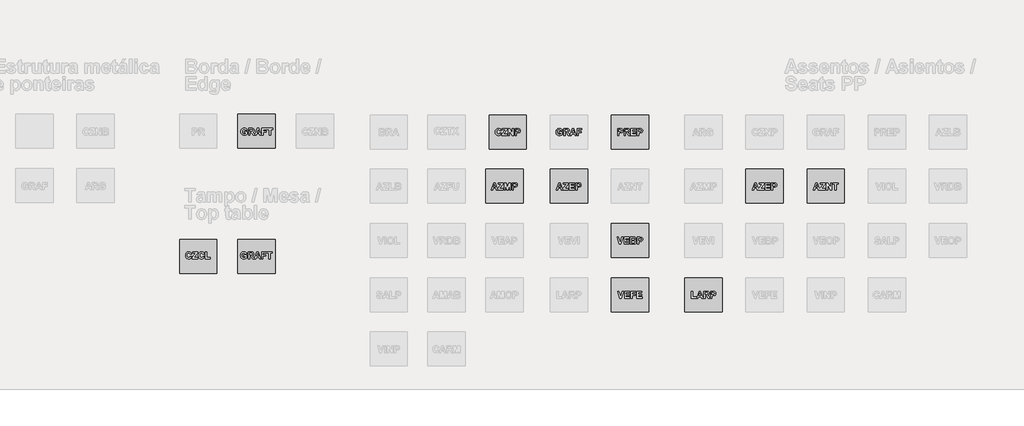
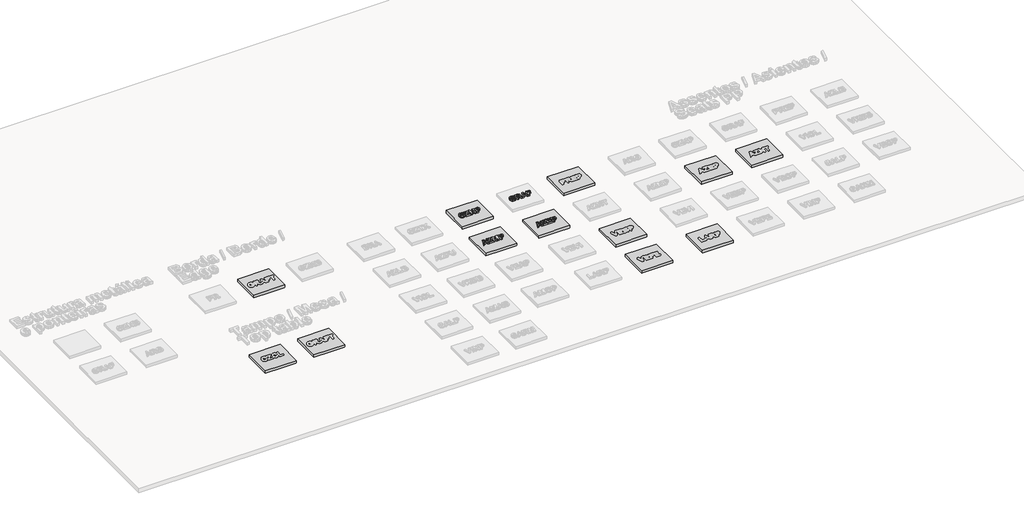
# One storey, part 6 of 11: 16 proxies.
"""IFC4 building model written with IfcOpenShell, lengths in millimetres."""

from ifc_helpers import new_model, si_unit, frame, origin, place, context, project, spatial, polyline, outline, extrude, transform, mapped, element, save
from components import generic_models_12_generic_models_1_aeca2572, generic_models_14_generic_models_1_f76d4024, generic_models_15_generic_models_1_2de620d3, generic_models_18_generic_models_1_cb23df02, generic_models_22_generic_models_1_4682f98c, generic_models_3_generic_models_1_f9f5fa65, generic_models_39_generic_models_1_207fc2ec, generic_models_4_generic_models_1_a14395d2, generic_models_43_generic_models_1_5dd9acc0, generic_models_47_generic_models_1_7874324c, generic_models_5_generic_models_1_ef61b294

model = new_model("IFC4")

# Units and contexts
model_context = context("Model", 3, world=origin())
ifc_project = project(units=[si_unit("LENGTHUNIT", "METRE", prefix="MILLI")], contexts=[model_context])

# Site, building, storey
site = spatial("IfcSite", under=ifc_project)
building = spatial("IfcBuilding", under=site)
storey = spatial("IfcBuildingStorey", under=building, Name="Biblioteca BIM Revit Metadil - Refeitório", Elevation=0.0)

# Proxies
placement = place(None, origin())
element("IfcBuildingElementProxy", 1, Name="Arial 200mm", ObjectType="Arial 200mm", at=placement, inside=storey, context=model_context, shape_type="SweptSolid", body=[
    extrude(outline(polyline([(-2708.5125485, 2026.3873716), (-2669.6455238, 2013.4316967), (-2681.9053372, 1984.8064872), (-2700.2634274, 1964.6201793), (-2724.5553178, 1952.6450364), (-2754.6165323, 1948.6533221), (-2774.0785117, 1950.3581826), (-2791.7249254, 1955.4727643), (-2807.5557733, 1963.997067), (-2821.5710554, 1975.9310908), (-2833.0401173, 1990.8225257), (-2841.2323043, 2008.2190619), (-2846.1476165, 2028.1206992), (-2847.7860539, 2050.5274378), (-2846.133383, 2074.1550969), (-2841.1753702, 2094.9866581), (-2832.9120155, 2113.0221216), (-2821.343319, 2128.2614873), (-2807.0797408, 2140.3726394), (-2790.7317414, 2149.0234624), (-2772.2993206, 2154.2139562), (-2751.7824784, 2155.9441208), (-2717.6726155, 2150.2380569), (-2703.2746096, 2143.1054771), (-2690.6478874, 2133.1198654), (-2678.3880739, 2116.7101873), (-2669.6455238, 2094.4046649), (-2708.5125485, 2087.9268275), (-2714.4653269, 2101.3696054), (-2724.63123, 2111.6367247), (-2738.2258323, 2118.1461923), (-2754.464708, 2120.3160148), (-2776.4222996, 2116.3749086), (-2793.8125098, 2104.55159), (-2805.1423993, 2083.9098091), (-2808.9190291, 2053.513316), (-2805.2562675, 2021.4530813), (-2794.2679827, 2000.1723731), (-2777.4091577, 1988.2541644), (-2756.1347755, 1984.2814281), (-2740.0730281, 1986.8181594), (-2726.4025137, 1994.4283532), (-2715.6925734, 2007.4915703), (-2708.5125485, 2026.3873716)])), frame((0.0, 0.0, 100.0), z_axis=(0.0, 0.0, 1.0), x_axis=(1.0, 0.0, 0.0)), (0.0, 0.0, 1.0), 50.0),
    extrude(outline(polyline([(-2653.4509301, 1948.6533221), (-2653.4509301, 1987.5203468), (-2544.0868149, 2117.077096), (-2640.4952552, 2117.077096), (-2640.4952552, 2152.7052021), (-2494.7439123, 2152.7052021), (-2494.7439123, 2117.077096), (-2606.8408653, 1984.2814281), (-2491.5049936, 1984.2814281), (-2491.5049936, 1948.6533221), (-2653.4509301, 1948.6533221)])), frame((0.0, 0.0, 100.0), z_axis=(0.0, 0.0, 1.0), x_axis=(1.0, 0.0, 0.0)), (0.0, 0.0, 1.0), 50.0),
    extrude(outline(polyline([(-2465.5936438, 1948.6533221), (-2465.5936438, 2152.7052021), (-2424.8541191, 2152.7052021), (-2339.2758133, 2015.3548047), (-2339.2758133, 2152.7052021), (-2300.4087885, 2152.7052021), (-2300.4087885, 1948.6533221), (-2342.4135158, 1948.6533221), (-2426.726619, 2083.9793953), (-2426.726619, 1948.6533221), (-2465.5936438, 1948.6533221)])), frame((0.0, 0.0, 100.0), z_axis=(0.0, 0.0, 1.0), x_axis=(1.0, 0.0, 0.0)), (0.0, 0.0, 1.0), 50.0),
    extrude(outline(polyline([(-2261.5417638, 1948.6533221), (-2261.5417638, 2152.7052021), (-2195.8018352, 2152.7052021), (-2147.0662299, 2149.6687158), (-2131.0297866, 2142.4254307), (-2117.8400492, 2129.8050345), (-2109.0152608, 2112.2756521), (-2106.0736647, 2090.3054084), (-2107.8006663, 2073.1176307), (-2112.9816711, 2058.9030792), (-2120.8259274, 2047.5415596), (-2130.5426836, 2038.9128776), (-2152.1776485, 2029.2720336), (-2195.4475784, 2026.3873716), (-2222.674739, 2026.3873716), (-2222.674739, 1948.6533221), (-2261.5417638, 1948.6533221)]), holes=[polyline([(-2222.674739, 2117.077096), (-2222.674739, 2062.0154776), (-2198.5346728, 2062.0154776), (-2163.6909924, 2065.0519639), (-2149.9255878, 2074.5915918), (-2144.9406895, 2089.6981112), (-2146.6929951, 2099.3516072), (-2151.9499121, 2107.1579074), (-2169.6374448, 2115.7612853), (-2201.3687267, 2117.077096), (-2222.674739, 2117.077096)])]), frame((0.0, 0.0, 100.0), z_axis=(0.0, 0.0, 1.0), x_axis=(1.0, 0.0, 0.0)), (0.0, 0.0, 1.0), 50.0),
])
element("IfcBuildingElementProxy", 2, Name="Arial 200mm", ObjectType="Arial 200mm", at=placement, inside=storey, context=model_context, shape_type="SweptSolid", body=[
    extrude(outline(polyline([(-957.0963295, 2023.1484529), (-957.0963295, 2058.7765589), (-869.6455238, 2058.7765589), (-869.6455238, 1977.3987258), (-885.2581242, 1965.461539), (-906.5894405, 1955.0552474), (-930.9319391, 1947.8246144), (-955.5780863, 1945.4144034), (-985.0446555, 1948.7671903), (-1010.4878804, 1958.8255512), (-1031.009467, 1975.1150351), (-1045.7111216, 1997.1611909), (-1054.554888, 2023.1800829), (-1057.5028101, 2051.3877755), (-1054.1690012, 2081.4047079), (-1044.1675744, 2107.891725), (-1027.7389182, 2129.7354483), (-1005.1234213, 2145.8224998), (-983.1341996, 2153.4137155), (-956.3372079, 2155.9441208), (-922.5752757, 2151.8575163), (-897.1004208, 2139.5977028), (-879.5710384, 2120.1262344), (-869.6455238, 2094.4046649), (-908.5125485, 2087.9268275), (-915.0536461, 2101.3696054), (-925.56748, 2111.6367247), (-939.6238812, 2118.1461923), (-956.7926808, 2120.3160148), (-982.2359057, 2116.077586), (-1001.8845025, 2103.3622995), (-1014.4479646, 2082.2966758), (-1018.6357853, 2053.0072349), (-1014.4732687, 2021.5226675), (-1001.9857187, 1999.0336908), (-982.7419868, 1985.5403047), (-958.310924, 1981.0425094), (-931.5645404, 1985.9767996), (-908.5125485, 1997.9456165), (-908.5125485, 2023.1484529), (-957.0963295, 2023.1484529)])), frame((0.0, 0.0, 100.0), z_axis=(0.0, 0.0, 1.0), x_axis=(1.0, 0.0, 0.0)), (0.0, 0.0, 1.0), 50.0),
    extrude(outline(polyline([(-830.778499, 1948.6533221), (-830.778499, 2152.7052021), (-744.9471526, 2152.7052021), (-716.9861745, 2151.3261312), (-697.8816149, 2147.1889186), (-684.6728994, 2139.5217907), (-674.3994541, 2127.5529738), (-667.7950963, 2112.4084983), (-665.5936438, 2095.2143946), (-668.7756284, 2074.1487708), (-678.3215822, 2057.1064914), (-694.2062012, 2044.85933), (-716.4041813, 2038.1790601), (-696.009115, 2021.1747368), (-674.348846, 1988.2288603), (-649.3990501, 1948.6533221), (-694.7945204, 1948.6533221), (-724.3496538, 1995.2633869), (-747.5534701, 2022.9207164), (-760.8127936, 2030.7396686), (-783.0044477, 2032.8652091), (-791.9114742, 2032.8652091), (-791.9114742, 1948.6533221), (-830.778499, 1948.6533221)]), holes=[polyline([(-791.9114742, 2068.4933151), (-759.8765437, 2068.4933151), (-720.9842149, 2070.846592), (-708.8382696, 2078.9438888), (-704.4606685, 2093.2912866), (-705.9029995, 2102.0275108), (-710.2299925, 2108.9038871), (-726.5258024, 2116.4191907), (-758.10526, 2117.077096), (-791.9114742, 2117.077096), (-791.9114742, 2068.4933151)])]), frame((0.0, 0.0, 100.0), z_axis=(0.0, 0.0, 1.0), x_axis=(1.0, 0.0, 0.0)), (0.0, 0.0, 1.0), 50.0),
    extrude(outline(polyline([(-455.0639263, 1948.6533221), (-495.9046672, 1948.6533221), (-511.8968284, 1993.9981843), (-588.9729726, 1993.9981843), (-604.7627014, 1948.6533221), (-646.1601314, 1948.6533221), (-571.6650006, 2152.7052021), (-530.2675706, 2152.7052021), (-455.0639263, 1948.6533221)]), holes=[polyline([(-524.3464223, 2029.6262903), (-550.6120288, 2104.1214211), (-576.5233787, 2029.6262903), (-524.3464223, 2029.6262903)])]), frame((0.0, 0.0, 100.0), z_axis=(0.0, 0.0, 1.0), x_axis=(1.0, 0.0, 0.0)), (0.0, 0.0, 1.0), 50.0),
    extrude(outline(polyline([(-435.6304139, 1948.6533221), (-435.6304139, 2152.7052021), (-296.3569085, 2152.7052021), (-296.3569085, 2117.077096), (-396.7633892, 2117.077096), (-396.7633892, 2071.7322338), (-309.3125835, 2071.7322338), (-309.3125835, 2036.1041278), (-396.7633892, 2036.1041278), (-396.7633892, 1948.6533221), (-435.6304139, 1948.6533221)])), frame((0.0, 0.0, 100.0), z_axis=(0.0, 0.0, 1.0), x_axis=(1.0, 0.0, 0.0)), (0.0, 0.0, 1.0), 50.0),
])
element("IfcBuildingElementProxy", 3, Name="Arial 200mm", ObjectType="Arial 200mm", at=placement, inside=storey, context=model_context, shape_type="SweptSolid", body=[
    extrude(outline(polyline([(-855.0703895, 348.6533221), (-895.9111303, 348.6533221), (-911.9032916, 393.9981843), (-988.9794357, 393.9981843), (-1004.7691645, 348.6533221), (-1046.1665945, 348.6533221), (-971.6714637, 552.7052021), (-930.2740337, 552.7052021), (-855.0703895, 348.6533221)]), holes=[polyline([(-924.3528854, 429.6262903), (-950.618492, 504.1214211), (-976.5298418, 429.6262903), (-924.3528854, 429.6262903)])]), frame((0.0, 0.0, 100.0), z_axis=(0.0, 0.0, 1.0), x_axis=(1.0, 0.0, 0.0)), (0.0, 0.0, 1.0), 50.0),
    extrude(outline(polyline([(-851.8314707, 348.6533221), (-851.8314707, 387.5203468), (-742.4673555, 517.077096), (-838.8757958, 517.077096), (-838.8757958, 552.7052021), (-693.124453, 552.7052021), (-693.124453, 517.077096), (-805.2214059, 384.2814281), (-689.8855342, 384.2814281), (-689.8855342, 348.6533221), (-851.8314707, 348.6533221)])), frame((0.0, 0.0, 100.0), z_axis=(0.0, 0.0, 1.0), x_axis=(1.0, 0.0, 0.0)), (0.0, 0.0, 1.0), 50.0),
    extrude(outline(polyline([(-663.9741844, 348.6533221), (-663.9741844, 552.7052021), (-511.7450041, 552.7052021), (-511.7450041, 517.077096), (-625.1071596, 517.077096), (-625.1071596, 471.7322338), (-518.2228415, 471.7322338), (-518.2228415, 436.1041278), (-625.1071596, 436.1041278), (-625.1071596, 384.2814281), (-508.5060854, 384.2814281), (-508.5060854, 348.6533221), (-663.9741844, 348.6533221)])), frame((0.0, 0.0, 100.0), z_axis=(0.0, 0.0, 1.0), x_axis=(1.0, 0.0, 0.0)), (0.0, 0.0, 1.0), 50.0),
    extrude(outline(polyline([(-476.1168981, 348.6533221), (-476.1168981, 552.7052021), (-410.3769695, 552.7052021), (-361.6413642, 549.6687158), (-345.6049209, 542.4254307), (-332.4151835, 529.8050345), (-323.5903951, 512.2756521), (-320.648799, 490.3054084), (-322.3758006, 473.1176307), (-327.5568054, 458.9030792), (-335.4010617, 447.5415596), (-345.1178179, 438.9128776), (-366.7527828, 429.2720336), (-410.0227127, 426.3873716), (-437.2498733, 426.3873716), (-437.2498733, 348.6533221), (-476.1168981, 348.6533221)]), holes=[polyline([(-437.2498733, 517.077096), (-437.2498733, 462.0154776), (-413.1098071, 462.0154776), (-378.2661267, 465.0519639), (-364.5007221, 474.5915918), (-359.5158238, 489.6981112), (-361.2681294, 499.3516072), (-366.5250463, 507.1579074), (-384.2125791, 515.7612853), (-415.943861, 517.077096), (-437.2498733, 517.077096)])]), frame((0.0, 0.0, 100.0), z_axis=(0.0, 0.0, 1.0), x_axis=(1.0, 0.0, 0.0)), (0.0, 0.0, 1.0), 50.0),
])
element("IfcBuildingElementProxy", 4, Name="Arial 200mm", ObjectType="Arial 200mm", at=placement, inside=storey, context=model_context, shape_type="SweptSolid", body=[
    extrude(outline(polyline([(-2775.4663706, 348.6533221), (-2816.3071115, 348.6533221), (-2832.2992727, 393.9981843), (-2909.3754169, 393.9981843), (-2925.1651457, 348.6533221), (-2966.5625757, 348.6533221), (-2892.0674449, 552.7052021), (-2850.6700149, 552.7052021), (-2775.4663706, 348.6533221)]), holes=[polyline([(-2844.7488666, 429.6262903), (-2871.0144732, 504.1214211), (-2896.925823, 429.6262903), (-2844.7488666, 429.6262903)])]), frame((0.0, 0.0, 100.0), z_axis=(0.0, 0.0, 1.0), x_axis=(1.0, 0.0, 0.0)), (0.0, 0.0, 1.0), 50.0),
    extrude(outline(polyline([(-2772.2274519, 348.6533221), (-2772.2274519, 387.5203468), (-2662.8633367, 517.077096), (-2759.271777, 517.077096), (-2759.271777, 552.7052021), (-2613.5204341, 552.7052021), (-2613.5204341, 517.077096), (-2725.617387, 384.2814281), (-2610.2815154, 384.2814281), (-2610.2815154, 348.6533221), (-2772.2274519, 348.6533221)])), frame((0.0, 0.0, 100.0), z_axis=(0.0, 0.0, 1.0), x_axis=(1.0, 0.0, 0.0)), (0.0, 0.0, 1.0), 50.0),
    extrude(outline(polyline([(-2584.3701656, 348.6533221), (-2584.3701656, 552.7052021), (-2517.7698992, 552.7052021), (-2485.5831443, 413.5329129), (-2453.3963894, 552.7052021), (-2386.796123, 552.7052021), (-2386.796123, 348.6533221), (-2425.6631478, 348.6533221), (-2427.2826072, 509.2834478), (-2462.809497, 348.6533221), (-2508.3061835, 348.6533221), (-2543.8836814, 509.2834478), (-2545.5031408, 348.6533221), (-2584.3701656, 348.6533221)])), frame((0.0, 0.0, 100.0), z_axis=(0.0, 0.0, 1.0), x_axis=(1.0, 0.0, 0.0)), (0.0, 0.0, 1.0), 50.0),
    extrude(outline(polyline([(-2347.9290983, 348.6533221), (-2347.9290983, 552.7052021), (-2282.1891697, 552.7052021), (-2233.4535644, 549.6687158), (-2217.4171211, 542.4254307), (-2204.2273837, 529.8050345), (-2195.4025953, 512.2756521), (-2192.4609992, 490.3054084), (-2194.1880008, 473.1176307), (-2199.3690056, 458.9030792), (-2207.2132619, 447.5415596), (-2216.9300181, 438.9128776), (-2238.564983, 429.2720336), (-2281.8349129, 426.3873716), (-2309.0620735, 426.3873716), (-2309.0620735, 348.6533221), (-2347.9290983, 348.6533221)]), holes=[polyline([(-2309.0620735, 517.077096), (-2309.0620735, 462.0154776), (-2284.9220073, 462.0154776), (-2250.0783269, 465.0519639), (-2236.3129223, 474.5915918), (-2231.328024, 489.6981112), (-2233.0803296, 499.3516072), (-2238.3372465, 507.1579074), (-2256.0247793, 515.7612853), (-2287.7560612, 517.077096), (-2309.0620735, 517.077096)])]), frame((0.0, 0.0, 100.0), z_axis=(0.0, 0.0, 1.0), x_axis=(1.0, 0.0, 0.0)), (0.0, 0.0, 1.0), 50.0),
])
generic_models_12_generic_models_1_shape = generic_models_12_generic_models_1_aeca2572(model_context)
element("IfcBuildingElementProxy", 5, Name="Generic Models 12 : Generic Models 1", ObjectType="Generic Models 12 : Generic Models 1", at=placement, inside=storey, context=model_context, shape_type="MappedRepresentation", body=[
    mapped(generic_models_12_generic_models_1_shape, transform((-7464.2678757, 7443.0756766, 0.0), x_axis=(1.0, 0.0, 0.0), y_axis=(0.0, 1.0, 0.0), z_axis=(0.0, 0.0, 1.0))),
])
generic_models_14_generic_models_1_shape = generic_models_14_generic_models_1_f76d4024(model_context)
element("IfcBuildingElementProxy", 6, Name="Generic Models 14 : Generic Models 1", ObjectType="Generic Models 14 : Generic Models 1", at=placement, inside=storey, context=model_context, shape_type="MappedRepresentation", body=[
    mapped(generic_models_14_generic_models_1_shape, transform((-3864.2678757, 7443.0756766, 0.0), x_axis=(1.0, 0.0, 0.0), y_axis=(0.0, 1.0, 0.0), z_axis=(0.0, 0.0, 1.0))),
])
generic_models_15_generic_models_1_shape = generic_models_15_generic_models_1_2de620d3(model_context)
element("IfcBuildingElementProxy", 7, Name="Generic Models 15 : Generic Models 1", ObjectType="Generic Models 15 : Generic Models 1", at=placement, inside=storey, context=model_context, shape_type="MappedRepresentation", body=[
    mapped(generic_models_15_generic_models_1_shape, transform((-3864.2678757, 5843.0756766, 0.0), x_axis=(1.0, 0.0, 0.0), y_axis=(0.0, 1.0, 0.0), z_axis=(0.0, 0.0, 1.0))),
])
generic_models_18_generic_models_1_shape = generic_models_18_generic_models_1_cb23df02(model_context)
element("IfcBuildingElementProxy", 8, Name="Generic Models 18 : Generic Models 1", ObjectType="Generic Models 18 : Generic Models 1", at=placement, inside=storey, context=model_context, shape_type="MappedRepresentation", body=[
    mapped(generic_models_18_generic_models_1_shape, transform((-7464.2678757, 7443.0756766, 0.0), x_axis=(1.0, 0.0, 0.0), y_axis=(0.0, 1.0, 0.0), z_axis=(0.0, 0.0, 1.0))),
])
element("IfcBuildingElementProxy", 9, Name="Generic Models 21 : Generic Models 1", ObjectType="Generic Models 21 : Generic Models 1", at=placement, inside=storey, context=model_context, shape_type="MappedRepresentation", body=[
    mapped(generic_models_14_generic_models_1_shape, transform((-5760.3719664, 7443.0756766, 0.0), x_axis=(1.0, 0.0, 0.0), y_axis=(0.0, 1.0, 0.0), z_axis=(0.0, 0.0, 1.0))),
])
generic_models_22_generic_models_1_shape = generic_models_22_generic_models_1_4682f98c(model_context)
element("IfcBuildingElementProxy", 10, Name="Generic Models 22 : Generic Models 1", ObjectType="Generic Models 22 : Generic Models 1", at=placement, inside=storey, context=model_context, shape_type="MappedRepresentation", body=[
    mapped(generic_models_22_generic_models_1_shape, transform((-2064.2678757, 5843.0756766, 0.0), x_axis=(1.0, 0.0, 0.0), y_axis=(0.0, 1.0, 0.0), z_axis=(0.0, 0.0, 1.0))),
])
generic_models_3_generic_models_1_shape = generic_models_3_generic_models_1_f9f5fa65(model_context)
element("IfcBuildingElementProxy", 11, Name="Generic Models 3 : Generic Models 1", ObjectType="Generic Models 3 : Generic Models 1", at=placement, inside=storey, context=model_context, shape_type="MappedRepresentation", body=[
    mapped(generic_models_3_generic_models_1_shape, transform((-160.0, 600.0, 0.0), x_axis=(1.0, 0.0, 0.0), y_axis=(0.0, 1.0, 0.0), z_axis=(0.0, 0.0, 1.0))),
])
generic_models_39_generic_models_1_shape = generic_models_39_generic_models_1_207fc2ec(model_context)
element("IfcBuildingElementProxy", 12, Name="Generic Models 39 : Generic Models 1", ObjectType="Generic Models 39 : Generic Models 1", at=placement, inside=storey, context=model_context, shape_type="MappedRepresentation", body=[
    mapped(generic_models_39_generic_models_1_shape, transform((-7004.0897812, 4503.0756766, 0.0), x_axis=(1.0, 0.0, 0.0), y_axis=(0.0, 1.0, 0.0), z_axis=(0.0, 0.0, 1.0))),
])
generic_models_4_generic_models_1_shape = generic_models_4_generic_models_1_a14395d2(model_context)
element("IfcBuildingElementProxy", 13, Name="Generic Models 4 : Generic Models 1", ObjectType="Generic Models 4 : Generic Models 1", at=placement, inside=storey, context=model_context, shape_type="MappedRepresentation", body=[
    mapped(generic_models_4_generic_models_1_shape, transform((-80.0, 600.0, 0.0), x_axis=(1.0, 0.0, 0.0), y_axis=(0.0, 1.0, 0.0), z_axis=(0.0, 0.0, 1.0))),
])
generic_models_43_generic_models_1_shape = generic_models_43_generic_models_1_5dd9acc0(model_context)
element("IfcBuildingElementProxy", 14, Name="Generic Models 43 : Generic Models 1", ObjectType="Generic Models 43 : Generic Models 1", at=placement, inside=storey, context=model_context, shape_type="MappedRepresentation", body=[
    mapped(generic_models_43_generic_models_1_shape, transform((-2758.1819203, 3380.6839809, 0.0), x_axis=(1.0, 0.0, 0.0), y_axis=(0.0, 1.0, 0.0), z_axis=(0.0, 0.0, 1.0))),
])
generic_models_47_generic_models_1_shape = generic_models_47_generic_models_1_7874324c(model_context)
element("IfcBuildingElementProxy", 15, Name="Generic Models 47 : Generic Models 1", ObjectType="Generic Models 47 : Generic Models 1", at=placement, inside=storey, context=model_context, shape_type="MappedRepresentation", body=[
    mapped(generic_models_47_generic_models_1_shape, transform((-2758.1819203, 3380.6839809, 0.0), x_axis=(1.0, 0.0, 0.0), y_axis=(0.0, 1.0, 0.0), z_axis=(0.0, 0.0, 1.0))),
])
generic_models_5_generic_models_1_shape = generic_models_5_generic_models_1_ef61b294(model_context)
element("IfcBuildingElementProxy", 16, Name="Generic Models 5 : Generic Models 1", ObjectType="Generic Models 5 : Generic Models 1", at=placement, inside=storey, context=model_context, shape_type="MappedRepresentation", body=[
    mapped(generic_models_5_generic_models_1_shape, transform((-160.0, 600.0, 0.0), x_axis=(1.0, 0.0, 0.0), y_axis=(0.0, 1.0, 0.0), z_axis=(0.0, 0.0, 1.0))),
])

save(model, "model.ifc")
